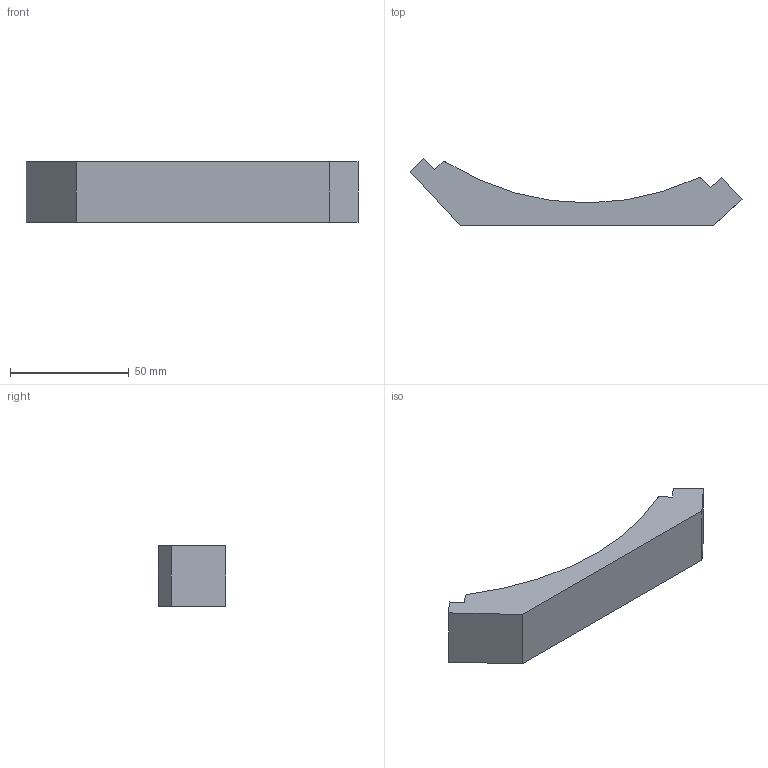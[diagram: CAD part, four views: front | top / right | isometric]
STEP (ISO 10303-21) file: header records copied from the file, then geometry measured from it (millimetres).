
FILE_DESCRIPTION (( 'STEP AP203' ), '1' );
FILE_NAME ('AB802-5FJ.STEP', '2023-08-25T14:20:53', ( '' ), ( '' ), 'SwSTEP 2.0', 'SolidWorks 2020', '' );
FILE_SCHEMA (( 'CONFIG_CONTROL_DESIGN' ));
Length unit declared in the file: inch
Products named in the file (1): AB802-5FJ
Bounding box: 139.73 x 28.24 x 25.4 mm (x, y, z)
Volume: 48152.8 mm3; surface area: 11708.2 mm2
Topology: 1 solids, 1 shells, 14 faces, 36 edges, 24 vertices
Faces by surface type: plane 11, cylinder 3
Entity records: 505 total; most frequent: CARTESIAN_POINT 75, ORIENTED_EDGE 72, DIRECTION 72, EDGE_CURVE 36, LINE 30, VECTOR 30, VERTEX_POINT 24, AXIS2_PLACEMENT_3D 21
